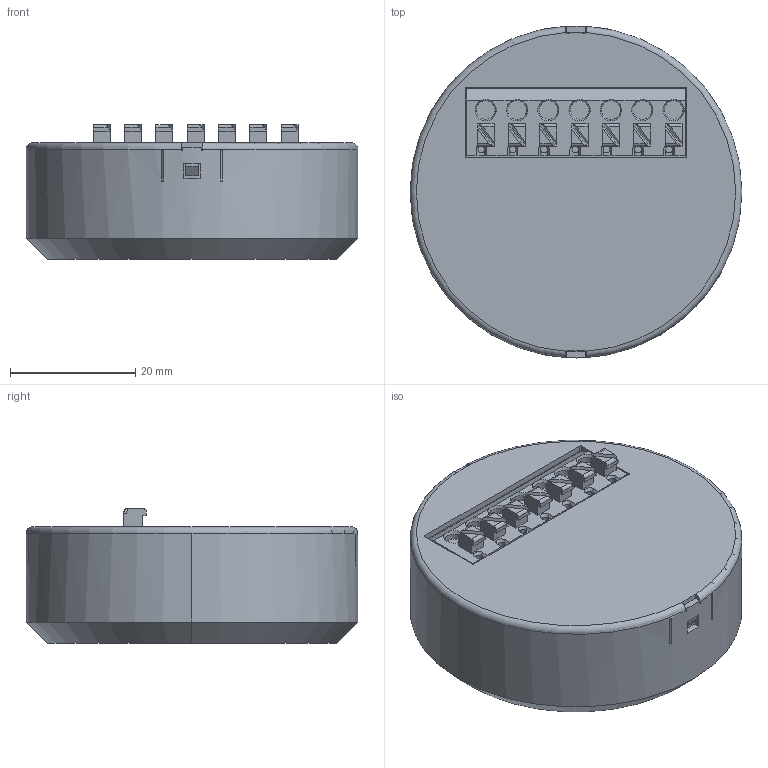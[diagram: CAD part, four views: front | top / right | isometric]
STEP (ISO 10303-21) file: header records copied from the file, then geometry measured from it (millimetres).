
FILE_DESCRIPTION(('Creo Elements/Direct Modeling STEP Export'),'2;1');
FILE_NAME('Blu2Light_PB4.stp','2020-02-04T12:45:51',(''),(''),'PTC Creo Elements/Direct Modeling STEP processor for AP214 (Solid Model)','PTC Creo Elements/Direct Modeling 19.0E 27-Jun-2016 (C) Parametric Technology GmbH','');
FILE_SCHEMA(('AUTOMOTIVE_DESIGN { 1 0 10303 214 1 1 1 1 }'));
Length unit declared in the file: millimetre
Products named in the file (1): Blu2Light_PB4
Bounding box: 53 x 53 x 21.5 mm (x, y, z)
Volume: 15142.9 mm3; surface area: 20804.2 mm2
Topology: 1 solids, 1 shells, 1754 faces, 5020 edges, 3327 vertices
Faces by surface type: plane 1625, cylinder 101, cone 26, torus 2
Entity records: 56273 total; most frequent: CARTESIAN_POINT 10366, ORIENTED_EDGE 10040, DIRECTION 8647, EDGE_CURVE 5020, VECTOR 4667, LINE 4667, VERTEX_POINT 3327, AXIS2_PLACEMENT_3D 1990
